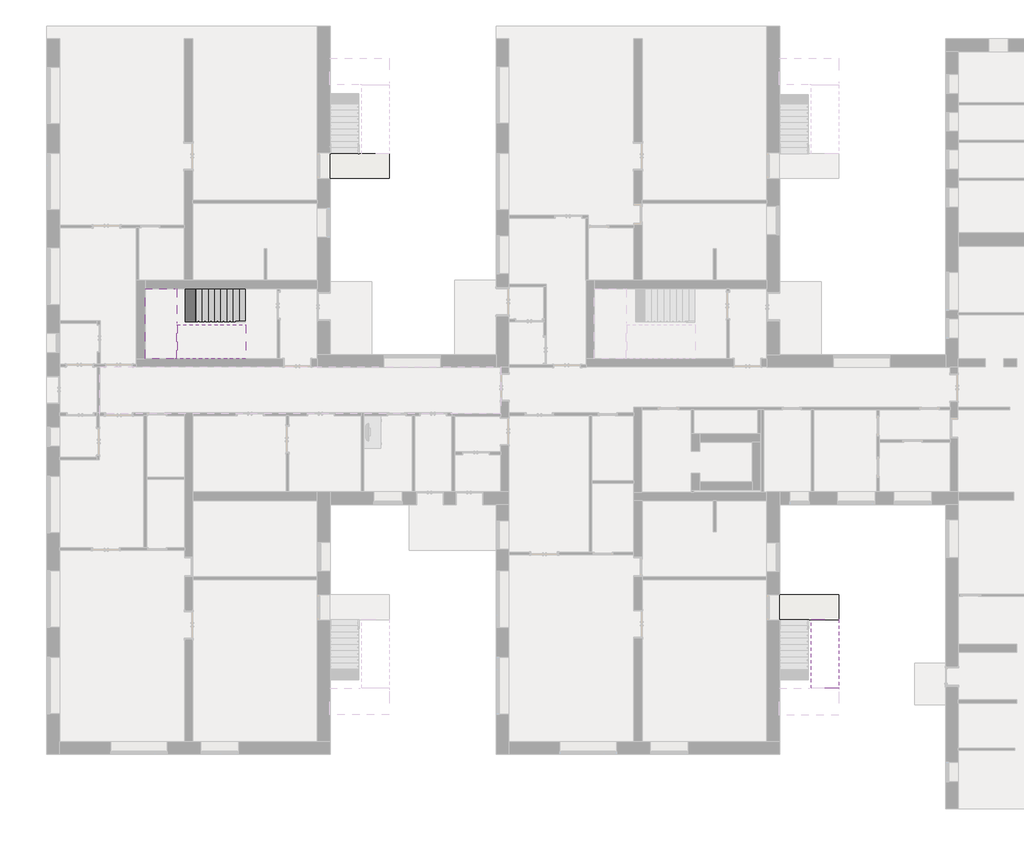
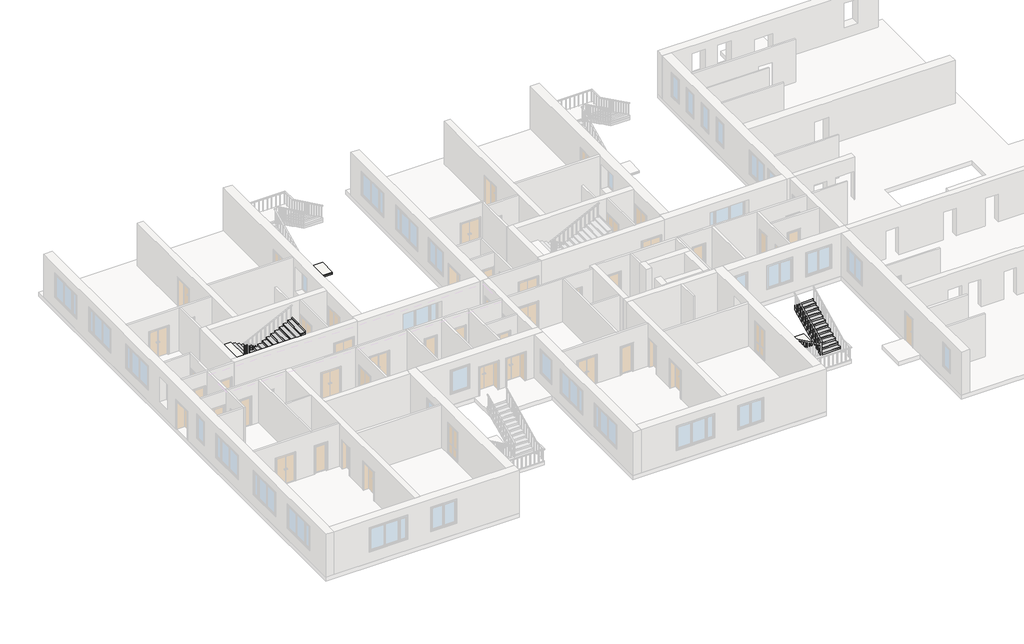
# One storey, part 7 of 10: 3 slabs, 3 stair flights.
"""IFC4 building model written with IfcOpenShell, lengths in millimetres."""

from ifc_helpers import new_model, si_unit, frame, origin, origin_with_axes, place, context, project, spatial, polyline, outline, extrude, faceted_brep, element, save

model = new_model("IFC4")

# Units and contexts
model_context = context("Model", 3, world=origin())
ifc_project = project(units=[si_unit("LENGTHUNIT", "METRE", prefix="MILLI")], contexts=[model_context])

# Site, building, storey
site = spatial("IfcSite", under=ifc_project)
building = spatial("IfcBuilding", under=site)
storey = spatial("IfcBuildingStorey", under=building, Name="1 этаж", Elevation=0.0)

# Slabs
placement = place(None, origin())
element("IfcSlab", 1, ObjectType="ADSK_Монолитная_С отделкой_200х80", at=placement, inside=storey, context=model_context, shape_type="SweptSolid", body=[
    extrude(outline(polyline([(-21952.3240021, 16519.4362632), (-21952.3240021, 15318.4207341), (-24802.3240021, 15318.4207341), (-24802.3240021, 16519.4362632), (-21952.3240021, 16519.4362632)])), origin_with_axes(), (0.0, 0.0, 1.0), 65.8333333),
    extrude(outline(polyline([(-21952.3240021, 15318.4207341), (-24802.3240021, 15318.4207341), (-24802.3240021, 16519.4362632), (-21952.3240021, 16519.4362632), (-21952.3240021, 15318.4207341)])), frame((0.0, 0.0, 65.8333333), z_axis=(0.0, 0.0, 1.0), x_axis=(1.0, 0.0, 0.0)), (0.0, 0.0, 1.0), 80.0),
])
element("IfcSlab", 2, ObjectType="ADSK_Монолитная_С отделкой_200х80", at=placement, inside=storey, context=model_context, shape_type="SweptSolid", body=[
    extrude(outline(polyline([(-3162.3240021, -4730.5622422), (-312.3240021, -4730.5622422), (-312.3240021, -5931.5777713), (-3162.3240021, -5931.5777713), (-3162.3240021, -4730.5622422)])), origin_with_axes(), (0.0, 0.0, 1.0), 65.8333333),
    extrude(outline(polyline([(-312.3240021, -4730.5622422), (-312.3240021, -5931.5777713), (-3162.3240021, -5931.5777713), (-3162.3240021, -4730.5622422), (-312.3240021, -4730.5622422)])), frame((0.0, 0.0, 65.8333333), z_axis=(0.0, 0.0, 1.0), x_axis=(1.0, 0.0, 0.0)), (0.0, 0.0, 1.0), 80.0),
])
element("IfcSlab", 3, ObjectType="ADSK_Монолитная_С отделкой_200х80", at=placement, inside=storey, context=model_context, shape_type="SolidModel", body=[
    faceted_brep([(-32182.0291278, 8412.4648158, 1670.0), (-32197.0291278, 8412.4648158, 1670.0), (-32197.0291278, 10004.6370105, 1670.0), (-32325.8415431, 10004.6370105, 1670.0), (-33712.7240021, 10004.6370105, 1670.0), (-33712.7240021, 6644.6370105, 1670.0), (-32338.2167125, 6644.6370105, 1670.0), (-32182.0291278, 6644.6370105, 1670.0), (-32167.0291278, 6644.6370105, 1670.0), (-32167.0291278, 8271.6648158, 1670.0), (-32182.0291278, 8271.6648158, 1670.0), (-32197.0291278, 8412.4648158, 1574.1666667), (-32197.0291278, 8412.4648158, 1470.0), (-32197.0291278, 8412.4648158, 1407.3828537), (-32197.0291278, 10004.6370105, 1407.3828537), (-32197.0291278, 10004.6370105, 1574.1666667), (-32182.0291278, 8271.6648158, 1545.9245203), (-32182.0291278, 8271.6648158, 1470.0), (-32182.0291278, 8412.4648158, 1470.0), (-32167.0291278, 6644.6370105, 1553.216187), (-32167.0291278, 8271.6648158, 1553.216187), (-32182.0291278, 6644.6370105, 1545.9245203), (-33712.7240021, 6644.6370105, 1470.0), (-32338.2167125, 6644.6370105, 1470.0), (-33712.7240021, 10004.6370105, 1470.0), (-32325.8415431, 10004.6370105, 1470.0), (-32338.2167125, 8271.6648158, 1470.0), (-32325.8415431, 8412.4648158, 1470.0)], [[[0, 1, 2, 3, 4, 5, 6, 7, 8, 9, 10]], [[2, 1, 11, 12, 13, 14, 15]], [[0, 10, 16, 17, 18]], [[9, 8, 19, 20]], [[8, 7, 21, 19]], [[5, 22, 23, 21, 7, 6]], [[5, 4, 24, 22]], [[2, 15, 14, 25, 24, 4, 3]], [[17, 26, 23, 22, 24, 25, 27, 12, 18]], [[27, 25, 14, 13]], [[12, 27, 13]], [[23, 26, 16, 20, 19, 21]], [[1, 0, 18, 12, 11]], [[10, 9, 20, 16]], [[26, 17, 16]]]),
    extrude(outline(polyline([(-32182.0291278, 8412.4648158), (-32182.0291278, 8271.6648158), (-32182.0291278, 6644.6370105), (-33712.7240021, 6644.6370105), (-33712.7240021, 10004.6370105), (-32182.0291278, 10004.6370105), (-32182.0291278, 8412.4648158)])), frame((0.0, 0.0, 1670.0), z_axis=(0.0, 0.0, 1.0), x_axis=(1.0, 0.0, 0.0)), (0.0, 0.0, 1.0), 80.0),
])

# Stair flights
element("IfcStairFlight", 4, ObjectType="ADSK_Монолитный_С отделкой_150х30х15", at=placement, inside=storey, context=model_context, shape_type="SolidModel", body=[
    faceted_brep([(-1641.9240021, -8916.5777713, 1865.8333333), (-1641.9240021, -9216.5777713, 1865.8333333), (-312.7240021, -9216.5777713, 1865.8333333), (-312.7240021, -8916.5777713, 1865.8333333), (-312.7240021, -9216.5777713, 1670.0), (-312.7240021, -9216.5777713, 1553.216187), (-312.7240021, -8916.5777713, 1699.0495203), (-1641.9240021, -9216.5777713, 1670.0), (-1641.9240021, -9216.5777713, 1553.216187), (-1641.9240021, -8916.5777713, 1699.0495203), (-1641.9240021, -8616.5777713, 2011.6666667), (-1641.9240021, -8916.5777713, 2011.6666667), (-312.7240021, -8916.5777713, 2011.6666667), (-312.7240021, -8616.5777713, 2011.6666667), (-312.7240021, -8616.5777713, 1844.8828537), (-1641.9240021, -8616.5777713, 1844.8828537), (-1641.9240021, -8316.5777713, 2157.5), (-1641.9240021, -8616.5777713, 2157.5), (-312.7240021, -8616.5777713, 2157.5), (-312.7240021, -8316.5777713, 2157.5), (-312.7240021, -8316.5777713, 1990.716187), (-1641.9240021, -8316.5777713, 1990.716187), (-1641.9240021, -8016.5777713, 2303.3333333), (-1641.9240021, -8316.5777713, 2303.3333333), (-312.7240021, -8316.5777713, 2303.3333333), (-312.7240021, -8016.5777713, 2303.3333333), (-312.7240021, -8016.5777713, 2136.5495203), (-1641.9240021, -8016.5777713, 2136.5495203), (-1641.9240021, -7716.5777713, 2449.1666667), (-1641.9240021, -8016.5777713, 2449.1666667), (-312.7240021, -8016.5777713, 2449.1666667), (-312.7240021, -7716.5777713, 2449.1666667), (-312.7240021, -7716.5777713, 2282.3828537), (-1641.9240021, -7716.5777713, 2282.3828537), (-1641.9240021, -7416.5777713, 2595.0), (-1641.9240021, -7716.5777713, 2595.0), (-312.7240021, -7716.5777713, 2595.0), (-312.7240021, -7416.5777713, 2595.0), (-312.7240021, -7416.5777713, 2428.216187), (-1641.9240021, -7416.5777713, 2428.216187), (-1641.9240021, -7116.5777713, 2740.8333333), (-1641.9240021, -7416.5777713, 2740.8333333), (-312.7240021, -7416.5777713, 2740.8333333), (-312.7240021, -7116.5777713, 2740.8333333), (-312.7240021, -7116.5777713, 2574.0495203), (-1641.9240021, -7116.5777713, 2574.0495203), (-1641.9240021, -6816.5777713, 2886.6666667), (-1641.9240021, -7116.5777713, 2886.6666667), (-312.7240021, -7116.5777713, 2886.6666667), (-312.7240021, -6816.5777713, 2886.6666667), (-312.7240021, -6816.5777713, 2719.8828537), (-1641.9240021, -6816.5777713, 2719.8828537), (-1641.9240021, -6516.5777713, 3032.5), (-1641.9240021, -6816.5777713, 3032.5), (-312.7240021, -6816.5777713, 3032.5), (-312.7240021, -6516.5777713, 3032.5), (-312.7240021, -6516.5777713, 2865.716187), (-1641.9240021, -6516.5777713, 2865.716187), (-1641.9240021, -6216.5777713, 3178.3333333), (-1641.9240021, -6516.5777713, 3178.3333333), (-312.7240021, -6516.5777713, 3178.3333333), (-312.7240021, -6216.5777713, 3178.3333333), (-312.7240021, -6216.5777713, 3011.5495203), (-1641.9240021, -6216.5777713, 3011.5495203), (-1641.9240021, -5916.5777713, 3324.1666667), (-1641.9240021, -6216.5777713, 3324.1666667), (-312.7240021, -6216.5777713, 3324.1666667), (-312.7240021, -5916.5777713, 3324.1666667), (-312.7240021, -5916.5777713, 3157.3828537), (-1641.9240021, -5916.5777713, 3157.3828537)], [[[0, 1, 2, 3]], [[3, 2, 4, 5, 6]], [[2, 1, 7, 8, 5, 4]], [[1, 0, 9, 8, 7]], [[10, 11, 12, 13]], [[13, 12, 3, 6, 14]], [[12, 11, 0, 3]], [[11, 10, 15, 9, 0]], [[16, 17, 18, 19]], [[19, 18, 13, 14, 20]], [[18, 17, 10, 13]], [[17, 16, 21, 15, 10]], [[22, 23, 24, 25]], [[25, 24, 19, 20, 26]], [[24, 23, 16, 19]], [[23, 22, 27, 21, 16]], [[28, 29, 30, 31]], [[31, 30, 25, 26, 32]], [[30, 29, 22, 25]], [[29, 28, 33, 27, 22]], [[34, 35, 36, 37]], [[37, 36, 31, 32, 38]], [[36, 35, 28, 31]], [[35, 34, 39, 33, 28]], [[40, 41, 42, 43]], [[43, 42, 37, 38, 44]], [[42, 41, 34, 37]], [[41, 40, 45, 39, 34]], [[46, 47, 48, 49]], [[49, 48, 43, 44, 50]], [[48, 47, 40, 43]], [[47, 46, 51, 45, 40]], [[52, 53, 54, 55]], [[55, 54, 49, 50, 56]], [[54, 53, 46, 49]], [[53, 52, 57, 51, 46]], [[58, 59, 60, 61]], [[61, 60, 55, 56, 62]], [[60, 59, 52, 55]], [[59, 58, 63, 57, 52]], [[64, 65, 66, 67]], [[67, 66, 61, 62, 68]], [[66, 65, 58, 61]], [[65, 64, 69, 63, 58]], [[64, 67, 68, 69]], [[8, 9, 15, 21, 27, 33, 39, 45, 51, 57, 63, 69, 68, 62, 56, 50, 44, 38, 32, 26, 20, 14, 6, 5]]]),
    extrude(outline(polyline([(-312.7240021, -9216.5777713), (-312.7240021, -9231.5777713), (-1641.9240021, -9231.5777713), (-1641.9240021, -9216.5777713), (-312.7240021, -9216.5777713)])), frame((0.0, 0.0, 1670.0), z_axis=(0.0, 0.0, 1.0), x_axis=(1.0, 0.0, 0.0)), (0.0, 0.0, 1.0), 195.8333333),
    extrude(outline(polyline([(-1641.9240021, -8931.5777713), (-312.7240021, -8931.5777713), (-312.7240021, -9231.5777713), (-1641.9240021, -9231.5777713), (-1641.9240021, -8931.5777713)])), frame((0.0, 0.0, 1865.8333333), z_axis=(0.0, 0.0, 1.0), x_axis=(1.0, 0.0, 0.0)), (0.0, 0.0, 1.0), 30.0),
    extrude(outline(polyline([(-312.7240021, -8916.5777713), (-312.7240021, -8931.5777713), (-1641.9240021, -8931.5777713), (-1641.9240021, -8916.5777713), (-312.7240021, -8916.5777713)])), frame((0.0, 0.0, 1865.8333333), z_axis=(0.0, 0.0, 1.0), x_axis=(1.0, 0.0, 0.0)), (0.0, 0.0, 1.0), 145.8333333),
    extrude(outline(polyline([(-1641.9240021, -8631.5777713), (-312.7240021, -8631.5777713), (-312.7240021, -8931.5777713), (-1641.9240021, -8931.5777713), (-1641.9240021, -8631.5777713)])), frame((0.0, 0.0, 2011.6666667), z_axis=(0.0, 0.0, 1.0), x_axis=(1.0, 0.0, 0.0)), (0.0, 0.0, 1.0), 30.0),
    extrude(outline(polyline([(-312.7240021, -8616.5777713), (-312.7240021, -8631.5777713), (-1641.9240021, -8631.5777713), (-1641.9240021, -8616.5777713), (-312.7240021, -8616.5777713)])), frame((0.0, 0.0, 2011.6666667), z_axis=(0.0, 0.0, 1.0), x_axis=(1.0, 0.0, 0.0)), (0.0, 0.0, 1.0), 145.8333333),
    extrude(outline(polyline([(-1641.9240021, -8331.5777713), (-312.7240021, -8331.5777713), (-312.7240021, -8631.5777713), (-1641.9240021, -8631.5777713), (-1641.9240021, -8331.5777713)])), frame((0.0, 0.0, 2157.5), z_axis=(0.0, 0.0, 1.0), x_axis=(1.0, 0.0, 0.0)), (0.0, 0.0, 1.0), 30.0),
    extrude(outline(polyline([(-312.7240021, -8316.5777713), (-312.7240021, -8331.5777713), (-1641.9240021, -8331.5777713), (-1641.9240021, -8316.5777713), (-312.7240021, -8316.5777713)])), frame((0.0, 0.0, 2157.5), z_axis=(0.0, 0.0, 1.0), x_axis=(1.0, 0.0, 0.0)), (0.0, 0.0, 1.0), 145.8333333),
    extrude(outline(polyline([(-1641.9240021, -8031.5777713), (-312.7240021, -8031.5777713), (-312.7240021, -8331.5777713), (-1641.9240021, -8331.5777713), (-1641.9240021, -8031.5777713)])), frame((0.0, 0.0, 2303.3333333), z_axis=(0.0, 0.0, 1.0), x_axis=(1.0, 0.0, 0.0)), (0.0, 0.0, 1.0), 30.0),
    extrude(outline(polyline([(-312.7240021, -8016.5777713), (-312.7240021, -8031.5777713), (-1641.9240021, -8031.5777713), (-1641.9240021, -8016.5777713), (-312.7240021, -8016.5777713)])), frame((0.0, 0.0, 2303.3333333), z_axis=(0.0, 0.0, 1.0), x_axis=(1.0, 0.0, 0.0)), (0.0, 0.0, 1.0), 145.8333333),
    extrude(outline(polyline([(-1641.9240021, -7731.5777713), (-312.7240021, -7731.5777713), (-312.7240021, -8031.5777713), (-1641.9240021, -8031.5777713), (-1641.9240021, -7731.5777713)])), frame((0.0, 0.0, 2449.1666667), z_axis=(0.0, 0.0, 1.0), x_axis=(1.0, 0.0, 0.0)), (0.0, 0.0, 1.0), 30.0),
    extrude(outline(polyline([(-312.7240021, -7716.5777713), (-312.7240021, -7731.5777713), (-1641.9240021, -7731.5777713), (-1641.9240021, -7716.5777713), (-312.7240021, -7716.5777713)])), frame((0.0, 0.0, 2449.1666667), z_axis=(0.0, 0.0, 1.0), x_axis=(1.0, 0.0, 0.0)), (0.0, 0.0, 1.0), 145.8333333),
    extrude(outline(polyline([(-1641.9240021, -7431.5777713), (-312.7240021, -7431.5777713), (-312.7240021, -7731.5777713), (-1641.9240021, -7731.5777713), (-1641.9240021, -7431.5777713)])), frame((0.0, 0.0, 2595.0), z_axis=(0.0, 0.0, 1.0), x_axis=(1.0, 0.0, 0.0)), (0.0, 0.0, 1.0), 30.0),
    extrude(outline(polyline([(-312.7240021, -7416.5777713), (-312.7240021, -7431.5777713), (-1641.9240021, -7431.5777713), (-1641.9240021, -7416.5777713), (-312.7240021, -7416.5777713)])), frame((0.0, 0.0, 2595.0), z_axis=(0.0, 0.0, 1.0), x_axis=(1.0, 0.0, 0.0)), (0.0, 0.0, 1.0), 145.8333333),
    extrude(outline(polyline([(-1641.9240021, -7131.5777713), (-312.7240021, -7131.5777713), (-312.7240021, -7431.5777713), (-1641.9240021, -7431.5777713), (-1641.9240021, -7131.5777713)])), frame((0.0, 0.0, 2740.8333333), z_axis=(0.0, 0.0, 1.0), x_axis=(1.0, 0.0, 0.0)), (0.0, 0.0, 1.0), 30.0),
    extrude(outline(polyline([(-312.7240021, -7116.5777713), (-312.7240021, -7131.5777713), (-1641.9240021, -7131.5777713), (-1641.9240021, -7116.5777713), (-312.7240021, -7116.5777713)])), frame((0.0, 0.0, 2740.8333333), z_axis=(0.0, 0.0, 1.0), x_axis=(1.0, 0.0, 0.0)), (0.0, 0.0, 1.0), 145.8333333),
    extrude(outline(polyline([(-1641.9240021, -6831.5777713), (-312.7240021, -6831.5777713), (-312.7240021, -7131.5777713), (-1641.9240021, -7131.5777713), (-1641.9240021, -6831.5777713)])), frame((0.0, 0.0, 2886.6666667), z_axis=(0.0, 0.0, 1.0), x_axis=(1.0, 0.0, 0.0)), (0.0, 0.0, 1.0), 30.0),
    extrude(outline(polyline([(-312.7240021, -6816.5777713), (-312.7240021, -6831.5777713), (-1641.9240021, -6831.5777713), (-1641.9240021, -6816.5777713), (-312.7240021, -6816.5777713)])), frame((0.0, 0.0, 2886.6666667), z_axis=(0.0, 0.0, 1.0), x_axis=(1.0, 0.0, 0.0)), (0.0, 0.0, 1.0), 145.8333333),
    extrude(outline(polyline([(-1641.9240021, -6531.5777713), (-312.7240021, -6531.5777713), (-312.7240021, -6831.5777713), (-1641.9240021, -6831.5777713), (-1641.9240021, -6531.5777713)])), frame((0.0, 0.0, 3032.5), z_axis=(0.0, 0.0, 1.0), x_axis=(1.0, 0.0, 0.0)), (0.0, 0.0, 1.0), 30.0),
    extrude(outline(polyline([(-312.7240021, -6516.5777713), (-312.7240021, -6531.5777713), (-1641.9240021, -6531.5777713), (-1641.9240021, -6516.5777713), (-312.7240021, -6516.5777713)])), frame((0.0, 0.0, 3032.5), z_axis=(0.0, 0.0, 1.0), x_axis=(1.0, 0.0, 0.0)), (0.0, 0.0, 1.0), 145.8333333),
    extrude(outline(polyline([(-1641.9240021, -6231.5777713), (-312.7240021, -6231.5777713), (-312.7240021, -6531.5777713), (-1641.9240021, -6531.5777713), (-1641.9240021, -6231.5777713)])), frame((0.0, 0.0, 3178.3333333), z_axis=(0.0, 0.0, 1.0), x_axis=(1.0, 0.0, 0.0)), (0.0, 0.0, 1.0), 30.0),
    extrude(outline(polyline([(-312.7240021, -6216.5777713), (-312.7240021, -6231.5777713), (-1641.9240021, -6231.5777713), (-1641.9240021, -6216.5777713), (-312.7240021, -6216.5777713)])), frame((0.0, 0.0, 3178.3333333), z_axis=(0.0, 0.0, 1.0), x_axis=(1.0, 0.0, 0.0)), (0.0, 0.0, 1.0), 145.8333333),
    extrude(outline(polyline([(-312.7240021, -5916.5777713), (-312.7240021, -5931.5777713), (-1641.9240021, -5931.5777713), (-1641.9240021, -5916.5777713), (-312.7240021, -5916.5777713)])), frame((0.0, 0.0, 3324.1666667), z_axis=(0.0, 0.0, 1.0), x_axis=(1.0, 0.0, 0.0)), (0.0, 0.0, 1.0), 145.8333333),
    extrude(outline(polyline([(-1641.9240021, -5931.5777713), (-312.7240021, -5931.5777713), (-312.7240021, -6231.5777713), (-1641.9240021, -6231.5777713), (-1641.9240021, -5931.5777713)])), frame((0.0, 0.0, 3324.1666667), z_axis=(0.0, 0.0, 1.0), x_axis=(1.0, 0.0, 0.0)), (0.0, 0.0, 1.0), 30.0),
])
element("IfcStairFlight", 5, ObjectType="ADSK_Монолитный_С отделкой_150х30х15", at=placement, inside=storey, context=model_context, shape_type="SolidModel", body=[
    faceted_brep([(-29197.0291278, 8412.4648158, 115.8333333), (-28897.0291278, 8412.4648158, 115.8333333), (-28897.0291278, 10004.6370105, 115.8333333), (-29197.0291278, 10004.6370105, 115.8333333), (-28897.0291278, 10004.6370105, 0.0), (-29197.0291278, 10004.6370105, 0.0), (-28897.0291278, 8412.4648158, 0.0), (-29197.0291278, 8412.4648158, 0.0), (-29497.0291278, 8412.4648158, 261.6666667), (-29197.0291278, 8412.4648158, 261.6666667), (-29197.0291278, 10004.6370105, 261.6666667), (-29497.0291278, 10004.6370105, 261.6666667), (-29301.8415431, 10004.6370105, 0.0), (-29497.0291278, 10004.6370105, 94.8828537), (-29497.0291278, 8412.4648158, 94.8828537), (-29301.8415431, 8412.4648158, 0.0), (-29797.0291278, 8412.4648158, 407.5), (-29497.0291278, 8412.4648158, 407.5), (-29497.0291278, 10004.6370105, 407.5), (-29797.0291278, 10004.6370105, 407.5), (-29797.0291278, 10004.6370105, 240.716187), (-29797.0291278, 8412.4648158, 240.716187), (-30097.0291278, 8412.4648158, 553.3333333), (-29797.0291278, 8412.4648158, 553.3333333), (-29797.0291278, 10004.6370105, 553.3333333), (-30097.0291278, 10004.6370105, 553.3333333), (-30097.0291278, 10004.6370105, 386.5495203), (-30097.0291278, 8412.4648158, 386.5495203), (-30397.0291278, 8412.4648158, 699.1666667), (-30097.0291278, 8412.4648158, 699.1666667), (-30097.0291278, 10004.6370105, 699.1666667), (-30397.0291278, 10004.6370105, 699.1666667), (-30397.0291278, 10004.6370105, 532.3828537), (-30397.0291278, 8412.4648158, 532.3828537), (-30697.0291278, 8412.4648158, 845.0), (-30397.0291278, 8412.4648158, 845.0), (-30397.0291278, 10004.6370105, 845.0), (-30697.0291278, 10004.6370105, 845.0), (-30697.0291278, 10004.6370105, 678.216187), (-30697.0291278, 8412.4648158, 678.216187), (-30997.0291278, 8412.4648158, 990.8333333), (-30697.0291278, 8412.4648158, 990.8333333), (-30697.0291278, 10004.6370105, 990.8333333), (-30997.0291278, 10004.6370105, 990.8333333), (-30997.0291278, 10004.6370105, 824.0495203), (-30997.0291278, 8412.4648158, 824.0495203), (-31297.0291278, 8412.4648158, 1136.6666667), (-30997.0291278, 8412.4648158, 1136.6666667), (-30997.0291278, 10004.6370105, 1136.6666667), (-31297.0291278, 10004.6370105, 1136.6666667), (-31297.0291278, 10004.6370105, 969.8828537), (-31297.0291278, 8412.4648158, 969.8828537), (-31597.0291278, 8412.4648158, 1282.5), (-31297.0291278, 8412.4648158, 1282.5), (-31297.0291278, 10004.6370105, 1282.5), (-31597.0291278, 10004.6370105, 1282.5), (-31597.0291278, 10004.6370105, 1115.716187), (-31597.0291278, 8412.4648158, 1115.716187), (-31897.0291278, 8412.4648158, 1428.3333333), (-31597.0291278, 8412.4648158, 1428.3333333), (-31597.0291278, 10004.6370105, 1428.3333333), (-31897.0291278, 10004.6370105, 1428.3333333), (-31897.0291278, 10004.6370105, 1261.5495203), (-31897.0291278, 8412.4648158, 1261.5495203), (-31897.0291278, 8412.4648158, 1574.1666667), (-31897.0291278, 10004.6370105, 1574.1666667), (-32197.0291278, 10004.6370105, 1574.1666667), (-32197.0291278, 8412.4648158, 1574.1666667), (-32182.0291278, 8412.4648158, 1574.1666667), (-32197.0291278, 10004.6370105, 1407.3828537), (-32197.0291278, 8412.4648158, 1470.0), (-32197.0291278, 8412.4648158, 1407.3828537)], [[[0, 1, 2, 3]], [[3, 2, 4, 5]], [[2, 1, 6, 4]], [[1, 0, 7, 6]], [[8, 9, 10, 11]], [[3, 5, 12, 13, 11, 10]], [[0, 3, 10, 9]], [[7, 0, 9, 8, 14, 15]], [[16, 17, 18, 19]], [[19, 18, 11, 13, 20]], [[8, 11, 18, 17]], [[17, 16, 21, 14, 8]], [[22, 23, 24, 25]], [[25, 24, 19, 20, 26]], [[16, 19, 24, 23]], [[23, 22, 27, 21, 16]], [[28, 29, 30, 31]], [[31, 30, 25, 26, 32]], [[22, 25, 30, 29]], [[29, 28, 33, 27, 22]], [[34, 35, 36, 37]], [[37, 36, 31, 32, 38]], [[28, 31, 36, 35]], [[35, 34, 39, 33, 28]], [[40, 41, 42, 43]], [[43, 42, 37, 38, 44]], [[34, 37, 42, 41]], [[41, 40, 45, 39, 34]], [[46, 47, 48, 49]], [[49, 48, 43, 44, 50]], [[40, 43, 48, 47]], [[47, 46, 51, 45, 40]], [[52, 53, 54, 55]], [[55, 54, 49, 50, 56]], [[46, 49, 54, 53]], [[53, 52, 57, 51, 46]], [[58, 59, 60, 61]], [[61, 60, 55, 56, 62]], [[52, 55, 60, 59]], [[59, 58, 63, 57, 52]], [[64, 65, 66, 67, 68]], [[66, 65, 61, 62, 69]], [[58, 61, 65, 64]], [[58, 64, 68, 67, 70, 71, 63]], [[67, 66, 69, 71, 70]], [[6, 7, 15, 12, 5, 4]], [[12, 15, 14, 21, 27, 33, 39, 45, 51, 57, 63, 71, 69, 62, 56, 50, 44, 38, 32, 26, 20, 13]]]),
    extrude(outline(polyline([(-28897.0291278, 10004.6370105), (-28882.0291278, 10004.6370105), (-28882.0291278, 8412.4648158), (-28897.0291278, 8412.4648158), (-28897.0291278, 10004.6370105)])), origin_with_axes(), (0.0, 0.0, 1.0), 115.8333333),
    extrude(outline(polyline([(-29182.0291278, 8412.4648158), (-29182.0291278, 10004.6370105), (-28882.0291278, 10004.6370105), (-28882.0291278, 8412.4648158), (-29182.0291278, 8412.4648158)])), frame((0.0, 0.0, 115.8333333), z_axis=(0.0, 0.0, 1.0), x_axis=(1.0, 0.0, 0.0)), (0.0, 0.0, 1.0), 30.0),
    extrude(outline(polyline([(-29197.0291278, 10004.6370105), (-29182.0291278, 10004.6370105), (-29182.0291278, 8412.4648158), (-29197.0291278, 8412.4648158), (-29197.0291278, 10004.6370105)])), frame((0.0, 0.0, 115.8333333), z_axis=(0.0, 0.0, 1.0), x_axis=(1.0, 0.0, 0.0)), (0.0, 0.0, 1.0), 145.8333333),
    extrude(outline(polyline([(-29482.0291278, 8412.4648158), (-29482.0291278, 10004.6370105), (-29182.0291278, 10004.6370105), (-29182.0291278, 8412.4648158), (-29482.0291278, 8412.4648158)])), frame((0.0, 0.0, 261.6666667), z_axis=(0.0, 0.0, 1.0), x_axis=(1.0, 0.0, 0.0)), (0.0, 0.0, 1.0), 30.0),
    extrude(outline(polyline([(-29497.0291278, 10004.6370105), (-29482.0291278, 10004.6370105), (-29482.0291278, 8412.4648158), (-29497.0291278, 8412.4648158), (-29497.0291278, 10004.6370105)])), frame((0.0, 0.0, 261.6666667), z_axis=(0.0, 0.0, 1.0), x_axis=(1.0, 0.0, 0.0)), (0.0, 0.0, 1.0), 145.8333333),
    extrude(outline(polyline([(-29782.0291278, 8412.4648158), (-29782.0291278, 10004.6370105), (-29482.0291278, 10004.6370105), (-29482.0291278, 8412.4648158), (-29782.0291278, 8412.4648158)])), frame((0.0, 0.0, 407.5), z_axis=(0.0, 0.0, 1.0), x_axis=(1.0, 0.0, 0.0)), (0.0, 0.0, 1.0), 30.0),
    extrude(outline(polyline([(-29797.0291278, 10004.6370105), (-29782.0291278, 10004.6370105), (-29782.0291278, 8412.4648158), (-29797.0291278, 8412.4648158), (-29797.0291278, 10004.6370105)])), frame((0.0, 0.0, 407.5), z_axis=(0.0, 0.0, 1.0), x_axis=(1.0, 0.0, 0.0)), (0.0, 0.0, 1.0), 145.8333333),
    extrude(outline(polyline([(-30082.0291278, 8412.4648158), (-30082.0291278, 10004.6370105), (-29782.0291278, 10004.6370105), (-29782.0291278, 8412.4648158), (-30082.0291278, 8412.4648158)])), frame((0.0, 0.0, 553.3333333), z_axis=(0.0, 0.0, 1.0), x_axis=(1.0, 0.0, 0.0)), (0.0, 0.0, 1.0), 30.0),
    extrude(outline(polyline([(-30097.0291278, 10004.6370105), (-30082.0291278, 10004.6370105), (-30082.0291278, 8412.4648158), (-30097.0291278, 8412.4648158), (-30097.0291278, 10004.6370105)])), frame((0.0, 0.0, 553.3333333), z_axis=(0.0, 0.0, 1.0), x_axis=(1.0, 0.0, 0.0)), (0.0, 0.0, 1.0), 145.8333333),
    extrude(outline(polyline([(-30382.0291278, 8412.4648158), (-30382.0291278, 10004.6370105), (-30082.0291278, 10004.6370105), (-30082.0291278, 8412.4648158), (-30382.0291278, 8412.4648158)])), frame((0.0, 0.0, 699.1666667), z_axis=(0.0, 0.0, 1.0), x_axis=(1.0, 0.0, 0.0)), (0.0, 0.0, 1.0), 30.0),
    extrude(outline(polyline([(-30397.0291278, 10004.6370105), (-30382.0291278, 10004.6370105), (-30382.0291278, 8412.4648158), (-30397.0291278, 8412.4648158), (-30397.0291278, 10004.6370105)])), frame((0.0, 0.0, 699.1666667), z_axis=(0.0, 0.0, 1.0), x_axis=(1.0, 0.0, 0.0)), (0.0, 0.0, 1.0), 145.8333333),
    extrude(outline(polyline([(-30682.0291278, 8412.4648158), (-30682.0291278, 10004.6370105), (-30382.0291278, 10004.6370105), (-30382.0291278, 8412.4648158), (-30682.0291278, 8412.4648158)])), frame((0.0, 0.0, 845.0), z_axis=(0.0, 0.0, 1.0), x_axis=(1.0, 0.0, 0.0)), (0.0, 0.0, 1.0), 30.0),
    extrude(outline(polyline([(-30697.0291278, 10004.6370105), (-30682.0291278, 10004.6370105), (-30682.0291278, 8412.4648158), (-30697.0291278, 8412.4648158), (-30697.0291278, 10004.6370105)])), frame((0.0, 0.0, 845.0), z_axis=(0.0, 0.0, 1.0), x_axis=(1.0, 0.0, 0.0)), (0.0, 0.0, 1.0), 145.8333333),
    extrude(outline(polyline([(-30982.0291278, 8412.4648158), (-30982.0291278, 10004.6370105), (-30682.0291278, 10004.6370105), (-30682.0291278, 8412.4648158), (-30982.0291278, 8412.4648158)])), frame((0.0, 0.0, 990.8333333), z_axis=(0.0, 0.0, 1.0), x_axis=(1.0, 0.0, 0.0)), (0.0, 0.0, 1.0), 30.0),
    extrude(outline(polyline([(-30997.0291278, 10004.6370105), (-30982.0291278, 10004.6370105), (-30982.0291278, 8412.4648158), (-30997.0291278, 8412.4648158), (-30997.0291278, 10004.6370105)])), frame((0.0, 0.0, 990.8333333), z_axis=(0.0, 0.0, 1.0), x_axis=(1.0, 0.0, 0.0)), (0.0, 0.0, 1.0), 145.8333333),
    extrude(outline(polyline([(-31282.0291278, 8412.4648158), (-31282.0291278, 10004.6370105), (-30982.0291278, 10004.6370105), (-30982.0291278, 8412.4648158), (-31282.0291278, 8412.4648158)])), frame((0.0, 0.0, 1136.6666667), z_axis=(0.0, 0.0, 1.0), x_axis=(1.0, 0.0, 0.0)), (0.0, 0.0, 1.0), 30.0),
    extrude(outline(polyline([(-31297.0291278, 10004.6370105), (-31282.0291278, 10004.6370105), (-31282.0291278, 8412.4648158), (-31297.0291278, 8412.4648158), (-31297.0291278, 10004.6370105)])), frame((0.0, 0.0, 1136.6666667), z_axis=(0.0, 0.0, 1.0), x_axis=(1.0, 0.0, 0.0)), (0.0, 0.0, 1.0), 145.8333333),
    extrude(outline(polyline([(-31582.0291278, 8412.4648158), (-31582.0291278, 10004.6370105), (-31282.0291278, 10004.6370105), (-31282.0291278, 8412.4648158), (-31582.0291278, 8412.4648158)])), frame((0.0, 0.0, 1282.5), z_axis=(0.0, 0.0, 1.0), x_axis=(1.0, 0.0, 0.0)), (0.0, 0.0, 1.0), 30.0),
    extrude(outline(polyline([(-31597.0291278, 10004.6370105), (-31582.0291278, 10004.6370105), (-31582.0291278, 8412.4648158), (-31597.0291278, 8412.4648158), (-31597.0291278, 10004.6370105)])), frame((0.0, 0.0, 1282.5), z_axis=(0.0, 0.0, 1.0), x_axis=(1.0, 0.0, 0.0)), (0.0, 0.0, 1.0), 145.8333333),
    extrude(outline(polyline([(-31882.0291278, 8412.4648158), (-31882.0291278, 10004.6370105), (-31582.0291278, 10004.6370105), (-31582.0291278, 8412.4648158), (-31882.0291278, 8412.4648158)])), frame((0.0, 0.0, 1428.3333333), z_axis=(0.0, 0.0, 1.0), x_axis=(1.0, 0.0, 0.0)), (0.0, 0.0, 1.0), 30.0),
    extrude(outline(polyline([(-31897.0291278, 10004.6370105), (-31882.0291278, 10004.6370105), (-31882.0291278, 8412.4648158), (-31897.0291278, 8412.4648158), (-31897.0291278, 10004.6370105)])), frame((0.0, 0.0, 1428.3333333), z_axis=(0.0, 0.0, 1.0), x_axis=(1.0, 0.0, 0.0)), (0.0, 0.0, 1.0), 145.8333333),
    extrude(outline(polyline([(-32197.0291278, 10004.6370105), (-32182.0291278, 10004.6370105), (-32182.0291278, 8412.4648158), (-32197.0291278, 8412.4648158), (-32197.0291278, 10004.6370105)])), frame((0.0, 0.0, 1574.1666667), z_axis=(0.0, 0.0, 1.0), x_axis=(1.0, 0.0, 0.0)), (0.0, 0.0, 1.0), 95.8333333),
    extrude(outline(polyline([(-32182.0291278, 8412.4648158), (-32182.0291278, 10004.6370105), (-31882.0291278, 10004.6370105), (-31882.0291278, 8412.4648158), (-32182.0291278, 8412.4648158)])), frame((0.0, 0.0, 1574.1666667), z_axis=(0.0, 0.0, 1.0), x_axis=(1.0, 0.0, 0.0)), (0.0, 0.0, 1.0), 30.0),
])
element("IfcStairFlight", 6, ObjectType="ADSK_Монолитный_С отделкой_150х30х15", at=placement, inside=storey, context=model_context, shape_type="SolidModel", body=[
    faceted_brep([(-31867.0291278, 8271.6648158, 1865.8333333), (-32167.0291278, 8271.6648158, 1865.8333333), (-32167.0291278, 6644.6370105, 1865.8333333), (-31867.0291278, 6644.6370105, 1865.8333333), (-32167.0291278, 6644.6370105, 1670.0), (-32167.0291278, 6644.6370105, 1553.216187), (-31867.0291278, 6644.6370105, 1699.0495203), (-32167.0291278, 8271.6648158, 1670.0), (-32167.0291278, 8271.6648158, 1553.216187), (-31867.0291278, 8271.6648158, 1699.0495203), (-31567.0291278, 8271.6648158, 2011.6666667), (-31867.0291278, 8271.6648158, 2011.6666667), (-31867.0291278, 6644.6370105, 2011.6666667), (-31567.0291278, 6644.6370105, 2011.6666667), (-31567.0291278, 6644.6370105, 1844.8828537), (-31567.0291278, 8271.6648158, 1844.8828537), (-31267.0291278, 8271.6648158, 2157.5), (-31567.0291278, 8271.6648158, 2157.5), (-31567.0291278, 6644.6370105, 2157.5), (-31267.0291278, 6644.6370105, 2157.5), (-31267.0291278, 6644.6370105, 1990.716187), (-31267.0291278, 8271.6648158, 1990.716187), (-30967.0291278, 8271.6648158, 2303.3333333), (-31267.0291278, 8271.6648158, 2303.3333333), (-31267.0291278, 6644.6370105, 2303.3333333), (-30967.0291278, 6644.6370105, 2303.3333333), (-30967.0291278, 6644.6370105, 2136.5495203), (-30967.0291278, 8271.6648158, 2136.5495203), (-30667.0291278, 8271.6648158, 2449.1666667), (-30967.0291278, 8271.6648158, 2449.1666667), (-30967.0291278, 6644.6370105, 2449.1666667), (-30667.0291278, 6644.6370105, 2449.1666667), (-30667.0291278, 6644.6370105, 2282.3828537), (-30667.0291278, 8271.6648158, 2282.3828537), (-30367.0291278, 8271.6648158, 2595.0), (-30667.0291278, 8271.6648158, 2595.0), (-30667.0291278, 6644.6370105, 2595.0), (-30367.0291278, 6644.6370105, 2595.0), (-30367.0291278, 6644.6370105, 2428.216187), (-30367.0291278, 8271.6648158, 2428.216187), (-30067.0291278, 8271.6648158, 2740.8333333), (-30367.0291278, 8271.6648158, 2740.8333333), (-30367.0291278, 6644.6370105, 2740.8333333), (-30067.0291278, 6644.6370105, 2740.8333333), (-30067.0291278, 6644.6370105, 2574.0495203), (-30067.0291278, 8271.6648158, 2574.0495203), (-29767.0291278, 8271.6648158, 2886.6666667), (-30067.0291278, 8271.6648158, 2886.6666667), (-30067.0291278, 6644.6370105, 2886.6666667), (-29767.0291278, 6644.6370105, 2886.6666667), (-29767.0291278, 6644.6370105, 2719.8828537), (-29767.0291278, 8271.6648158, 2719.8828537), (-29467.0291278, 8271.6648158, 3032.5), (-29767.0291278, 8271.6648158, 3032.5), (-29767.0291278, 6644.6370105, 3032.5), (-29467.0291278, 6644.6370105, 3032.5), (-29467.0291278, 6644.6370105, 2865.716187), (-29467.0291278, 8271.6648158, 2865.716187), (-29167.0291278, 8271.6648158, 3178.3333333), (-29467.0291278, 8271.6648158, 3178.3333333), (-29467.0291278, 6644.6370105, 3178.3333333), (-29167.0291278, 6644.6370105, 3178.3333333), (-29167.0291278, 6644.6370105, 3011.5495203), (-29167.0291278, 8271.6648158, 3011.5495203), (-28867.0291278, 8271.6648158, 3324.1666667), (-29167.0291278, 8271.6648158, 3324.1666667), (-29167.0291278, 6644.6370105, 3324.1666667), (-28867.0291278, 6644.6370105, 3324.1666667), (-28867.0291278, 6644.6370105, 3157.3828537), (-28867.0291278, 8271.6648158, 3157.3828537)], [[[0, 1, 2, 3]], [[3, 2, 4, 5, 6]], [[2, 1, 7, 8, 5, 4]], [[1, 0, 9, 8, 7]], [[10, 11, 12, 13]], [[13, 12, 3, 6, 14]], [[12, 11, 0, 3]], [[11, 10, 15, 9, 0]], [[16, 17, 18, 19]], [[19, 18, 13, 14, 20]], [[18, 17, 10, 13]], [[17, 16, 21, 15, 10]], [[22, 23, 24, 25]], [[25, 24, 19, 20, 26]], [[24, 23, 16, 19]], [[23, 22, 27, 21, 16]], [[28, 29, 30, 31]], [[31, 30, 25, 26, 32]], [[30, 29, 22, 25]], [[29, 28, 33, 27, 22]], [[34, 35, 36, 37]], [[37, 36, 31, 32, 38]], [[36, 35, 28, 31]], [[35, 34, 39, 33, 28]], [[40, 41, 42, 43]], [[43, 42, 37, 38, 44]], [[42, 41, 34, 37]], [[41, 40, 45, 39, 34]], [[46, 47, 48, 49]], [[49, 48, 43, 44, 50]], [[48, 47, 40, 43]], [[47, 46, 51, 45, 40]], [[52, 53, 54, 55]], [[55, 54, 49, 50, 56]], [[54, 53, 46, 49]], [[53, 52, 57, 51, 46]], [[58, 59, 60, 61]], [[61, 60, 55, 56, 62]], [[60, 59, 52, 55]], [[59, 58, 63, 57, 52]], [[64, 65, 66, 67]], [[67, 66, 61, 62, 68]], [[66, 65, 58, 61]], [[65, 64, 69, 63, 58]], [[64, 67, 68, 69]], [[8, 9, 15, 21, 27, 33, 39, 45, 51, 57, 63, 69, 68, 62, 56, 50, 44, 38, 32, 26, 20, 14, 6, 5]]]),
    extrude(outline(polyline([(-32167.0291278, 6644.6370105), (-32182.0291278, 6644.6370105), (-32182.0291278, 8271.6648158), (-32167.0291278, 8271.6648158), (-32167.0291278, 6644.6370105)])), frame((0.0, 0.0, 1670.0), z_axis=(0.0, 0.0, 1.0), x_axis=(1.0, 0.0, 0.0)), (0.0, 0.0, 1.0), 195.8333333),
    extrude(outline(polyline([(-31882.0291278, 8271.6648158), (-31882.0291278, 6644.6370105), (-32182.0291278, 6644.6370105), (-32182.0291278, 8271.6648158), (-31882.0291278, 8271.6648158)])), frame((0.0, 0.0, 1865.8333333), z_axis=(0.0, 0.0, 1.0), x_axis=(1.0, 0.0, 0.0)), (0.0, 0.0, 1.0), 30.0),
    extrude(outline(polyline([(-31867.0291278, 6644.6370105), (-31882.0291278, 6644.6370105), (-31882.0291278, 8271.6648158), (-31867.0291278, 8271.6648158), (-31867.0291278, 6644.6370105)])), frame((0.0, 0.0, 1865.8333333), z_axis=(0.0, 0.0, 1.0), x_axis=(1.0, 0.0, 0.0)), (0.0, 0.0, 1.0), 145.8333333),
    extrude(outline(polyline([(-31582.0291278, 8271.6648158), (-31582.0291278, 6644.6370105), (-31882.0291278, 6644.6370105), (-31882.0291278, 8271.6648158), (-31582.0291278, 8271.6648158)])), frame((0.0, 0.0, 2011.6666667), z_axis=(0.0, 0.0, 1.0), x_axis=(1.0, 0.0, 0.0)), (0.0, 0.0, 1.0), 30.0),
    extrude(outline(polyline([(-31567.0291278, 6644.6370105), (-31582.0291278, 6644.6370105), (-31582.0291278, 8271.6648158), (-31567.0291278, 8271.6648158), (-31567.0291278, 6644.6370105)])), frame((0.0, 0.0, 2011.6666667), z_axis=(0.0, 0.0, 1.0), x_axis=(1.0, 0.0, 0.0)), (0.0, 0.0, 1.0), 145.8333333),
    extrude(outline(polyline([(-31282.0291278, 8271.6648158), (-31282.0291278, 6644.6370105), (-31582.0291278, 6644.6370105), (-31582.0291278, 8271.6648158), (-31282.0291278, 8271.6648158)])), frame((0.0, 0.0, 2157.5), z_axis=(0.0, 0.0, 1.0), x_axis=(1.0, 0.0, 0.0)), (0.0, 0.0, 1.0), 30.0),
    extrude(outline(polyline([(-31267.0291278, 6644.6370105), (-31282.0291278, 6644.6370105), (-31282.0291278, 8271.6648158), (-31267.0291278, 8271.6648158), (-31267.0291278, 6644.6370105)])), frame((0.0, 0.0, 2157.5), z_axis=(0.0, 0.0, 1.0), x_axis=(1.0, 0.0, 0.0)), (0.0, 0.0, 1.0), 145.8333333),
    extrude(outline(polyline([(-30982.0291278, 8271.6648158), (-30982.0291278, 6644.6370105), (-31282.0291278, 6644.6370105), (-31282.0291278, 8271.6648158), (-30982.0291278, 8271.6648158)])), frame((0.0, 0.0, 2303.3333333), z_axis=(0.0, 0.0, 1.0), x_axis=(1.0, 0.0, 0.0)), (0.0, 0.0, 1.0), 30.0),
    extrude(outline(polyline([(-30967.0291278, 6644.6370105), (-30982.0291278, 6644.6370105), (-30982.0291278, 8271.6648158), (-30967.0291278, 8271.6648158), (-30967.0291278, 6644.6370105)])), frame((0.0, 0.0, 2303.3333333), z_axis=(0.0, 0.0, 1.0), x_axis=(1.0, 0.0, 0.0)), (0.0, 0.0, 1.0), 145.8333333),
    extrude(outline(polyline([(-30682.0291278, 8271.6648158), (-30682.0291278, 6644.6370105), (-30982.0291278, 6644.6370105), (-30982.0291278, 8271.6648158), (-30682.0291278, 8271.6648158)])), frame((0.0, 0.0, 2449.1666667), z_axis=(0.0, 0.0, 1.0), x_axis=(1.0, 0.0, 0.0)), (0.0, 0.0, 1.0), 30.0),
    extrude(outline(polyline([(-30667.0291278, 6644.6370105), (-30682.0291278, 6644.6370105), (-30682.0291278, 8271.6648158), (-30667.0291278, 8271.6648158), (-30667.0291278, 6644.6370105)])), frame((0.0, 0.0, 2449.1666667), z_axis=(0.0, 0.0, 1.0), x_axis=(1.0, 0.0, 0.0)), (0.0, 0.0, 1.0), 145.8333333),
    extrude(outline(polyline([(-30382.0291278, 8271.6648158), (-30382.0291278, 6644.6370105), (-30682.0291278, 6644.6370105), (-30682.0291278, 8271.6648158), (-30382.0291278, 8271.6648158)])), frame((0.0, 0.0, 2595.0), z_axis=(0.0, 0.0, 1.0), x_axis=(1.0, 0.0, 0.0)), (0.0, 0.0, 1.0), 30.0),
    extrude(outline(polyline([(-30367.0291278, 6644.6370105), (-30382.0291278, 6644.6370105), (-30382.0291278, 8271.6648158), (-30367.0291278, 8271.6648158), (-30367.0291278, 6644.6370105)])), frame((0.0, 0.0, 2595.0), z_axis=(0.0, 0.0, 1.0), x_axis=(1.0, 0.0, 0.0)), (0.0, 0.0, 1.0), 145.8333333),
    extrude(outline(polyline([(-30082.0291278, 8271.6648158), (-30082.0291278, 6644.6370105), (-30382.0291278, 6644.6370105), (-30382.0291278, 8271.6648158), (-30082.0291278, 8271.6648158)])), frame((0.0, 0.0, 2740.8333333), z_axis=(0.0, 0.0, 1.0), x_axis=(1.0, 0.0, 0.0)), (0.0, 0.0, 1.0), 30.0),
    extrude(outline(polyline([(-30067.0291278, 6644.6370105), (-30082.0291278, 6644.6370105), (-30082.0291278, 8271.6648158), (-30067.0291278, 8271.6648158), (-30067.0291278, 6644.6370105)])), frame((0.0, 0.0, 2740.8333333), z_axis=(0.0, 0.0, 1.0), x_axis=(1.0, 0.0, 0.0)), (0.0, 0.0, 1.0), 145.8333333),
    extrude(outline(polyline([(-29782.0291278, 8271.6648158), (-29782.0291278, 6644.6370105), (-30082.0291278, 6644.6370105), (-30082.0291278, 8271.6648158), (-29782.0291278, 8271.6648158)])), frame((0.0, 0.0, 2886.6666667), z_axis=(0.0, 0.0, 1.0), x_axis=(1.0, 0.0, 0.0)), (0.0, 0.0, 1.0), 30.0),
    extrude(outline(polyline([(-29767.0291278, 6644.6370105), (-29782.0291278, 6644.6370105), (-29782.0291278, 8271.6648158), (-29767.0291278, 8271.6648158), (-29767.0291278, 6644.6370105)])), frame((0.0, 0.0, 2886.6666667), z_axis=(0.0, 0.0, 1.0), x_axis=(1.0, 0.0, 0.0)), (0.0, 0.0, 1.0), 145.8333333),
    extrude(outline(polyline([(-29482.0291278, 8271.6648158), (-29482.0291278, 6644.6370105), (-29782.0291278, 6644.6370105), (-29782.0291278, 8271.6648158), (-29482.0291278, 8271.6648158)])), frame((0.0, 0.0, 3032.5), z_axis=(0.0, 0.0, 1.0), x_axis=(1.0, 0.0, 0.0)), (0.0, 0.0, 1.0), 30.0),
    extrude(outline(polyline([(-29467.0291278, 6644.6370105), (-29482.0291278, 6644.6370105), (-29482.0291278, 8271.6648158), (-29467.0291278, 8271.6648158), (-29467.0291278, 6644.6370105)])), frame((0.0, 0.0, 3032.5), z_axis=(0.0, 0.0, 1.0), x_axis=(1.0, 0.0, 0.0)), (0.0, 0.0, 1.0), 145.8333333),
    extrude(outline(polyline([(-29182.0291278, 8271.6648158), (-29182.0291278, 6644.6370105), (-29482.0291278, 6644.6370105), (-29482.0291278, 8271.6648158), (-29182.0291278, 8271.6648158)])), frame((0.0, 0.0, 3178.3333333), z_axis=(0.0, 0.0, 1.0), x_axis=(1.0, 0.0, 0.0)), (0.0, 0.0, 1.0), 30.0),
    extrude(outline(polyline([(-29167.0291278, 6644.6370105), (-29182.0291278, 6644.6370105), (-29182.0291278, 8271.6648158), (-29167.0291278, 8271.6648158), (-29167.0291278, 6644.6370105)])), frame((0.0, 0.0, 3178.3333333), z_axis=(0.0, 0.0, 1.0), x_axis=(1.0, 0.0, 0.0)), (0.0, 0.0, 1.0), 145.8333333),
    extrude(outline(polyline([(-28867.0291278, 6644.6370105), (-28882.0291278, 6644.6370105), (-28882.0291278, 8271.6648158), (-28867.0291278, 8271.6648158), (-28867.0291278, 6644.6370105)])), frame((0.0, 0.0, 3324.1666667), z_axis=(0.0, 0.0, 1.0), x_axis=(1.0, 0.0, 0.0)), (0.0, 0.0, 1.0), 145.8333333),
    extrude(outline(polyline([(-28882.0291278, 8271.6648158), (-28882.0291278, 6644.6370105), (-29182.0291278, 6644.6370105), (-29182.0291278, 8271.6648158), (-28882.0291278, 8271.6648158)])), frame((0.0, 0.0, 3324.1666667), z_axis=(0.0, 0.0, 1.0), x_axis=(1.0, 0.0, 0.0)), (0.0, 0.0, 1.0), 30.0),
])

save(model, "model.ifc")
